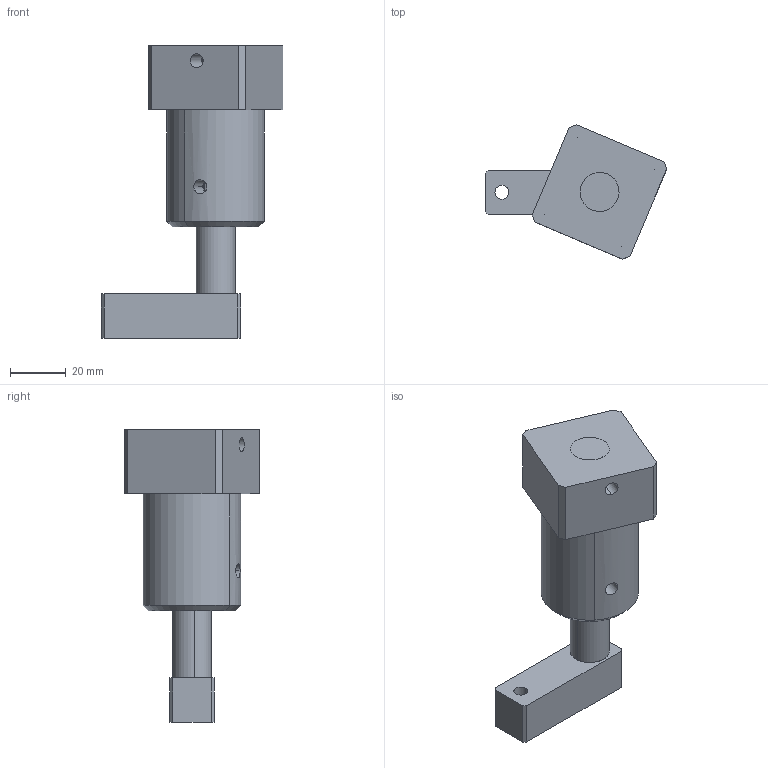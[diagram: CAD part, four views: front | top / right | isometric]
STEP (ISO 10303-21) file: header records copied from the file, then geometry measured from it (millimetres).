
FILE_DESCRIPTION (( 'STEP AP203' ), '1' );
FILE_NAME ('One side clamp ø25.STEP', '2010-02-18T14:02:36', ( 'Christophe Gaillard' ), ( 'SGA' ), 'SwSTEP 2.0', 'SolidWorks 2007', '' );
FILE_SCHEMA (( 'CONFIG_CONTROL_DESIGN' ));
Length unit declared in the file: millimetre
Products named in the file (5): Base One clamp ø25_Défaut; Tige One-clamp ø25_Défaut; Corps One-clamp ø25_Défaut; Clamp One-clamp ø25_Défaut; One side clamp ø25
Assembly tree (4 placements, depth 2):
  One side clamp ø25
    Tige One-clamp ø25_Défaut
    Base One clamp ø25_Défaut
    Corps One-clamp ø25_Défaut
    Clamp One-clamp ø25_Défaut
Bounding box: 65.12 x 48.23 x 104.9 mm (x, y, z)
Volume: 85946.4 mm3; surface area: 25674.9 mm2
Topology: 4 solids, 4 shells, 84 faces, 194 edges, 119 vertices
Faces by surface type: cylinder 38, plane 30, cone 16
Entity records: 3029 total; most frequent: CARTESIAN_POINT 572, DIRECTION 436, ORIENTED_EDGE 368, EDGE_CURVE 184, AXIS2_PLACEMENT_3D 167, VERTEX_POINT 119, EDGE_LOOP 107, VECTOR 102
